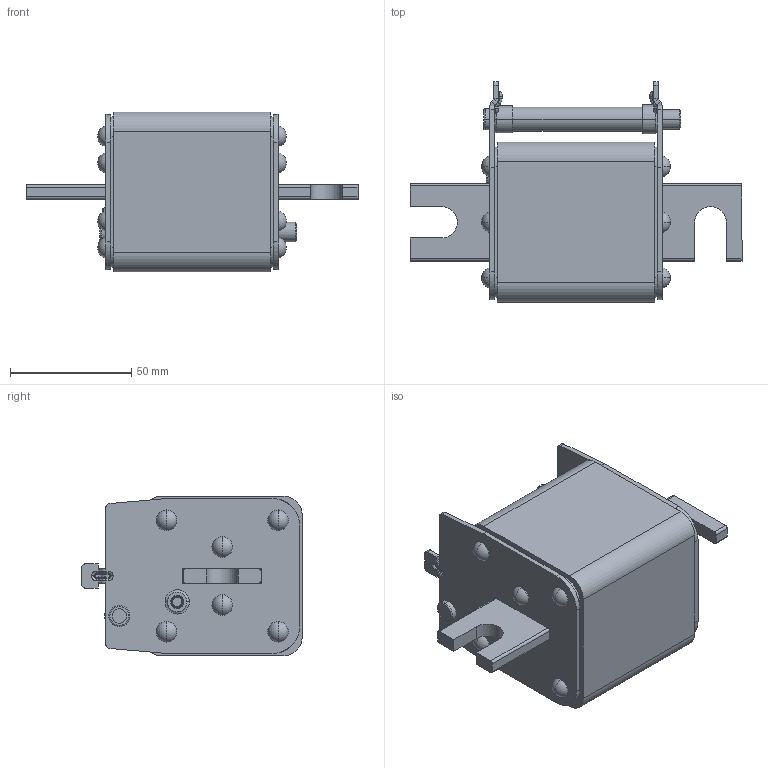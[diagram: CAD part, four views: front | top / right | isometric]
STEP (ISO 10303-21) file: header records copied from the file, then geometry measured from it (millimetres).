
FILE_DESCRIPTION (( 'STEP AP214' ), '1' );
FILE_NAME ('ﾏﾍﾁ7-690_630-3-500ﾀ-ﾓﾕﾋ3-ﾊﾝﾀﾇ.STEP', '2023-04-07T08:33:30', ( '' ), ( '' ), 'SwSTEP 2.0', 'SolidWorks 2018', '' );
FILE_SCHEMA (( 'AUTOMOTIVE_DESIGN' ));
Length unit declared in the file: millimetre
Products named in the file (1): ﾏﾍﾁ7-690_630-3-500ﾀ-ﾓﾕﾋ3-ﾊﾝﾀﾇ
Bounding box: 137 x 91 x 66 mm (x, y, z)
Volume: 322295.4 mm3; surface area: 43964.4 mm2
Topology: 1 solids, 21 shells, 547 faces, 1218 edges, 740 vertices
Faces by surface type: cylinder 230, plane 159, torus 106, sphere 28, cone 16, bspline 8
Entity records: 21401 total; most frequent: DIRECTION 2996, CARTESIAN_POINT 2666, ORIENTED_EDGE 2436, AXIS2_PLACEMENT_3D 1254, EDGE_CURVE 1218, VERTEX_POINT 740, CIRCLE 714, EDGE_LOOP 602
